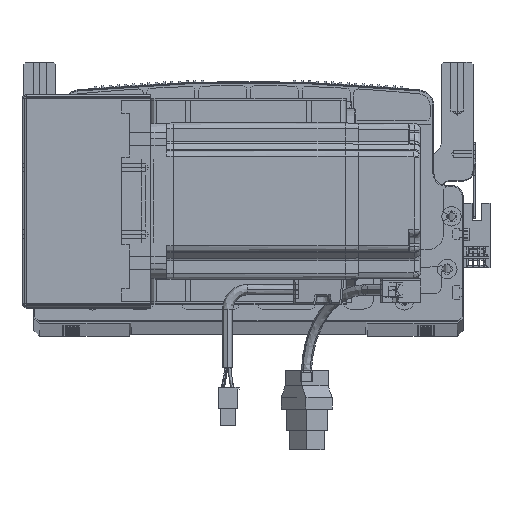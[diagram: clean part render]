
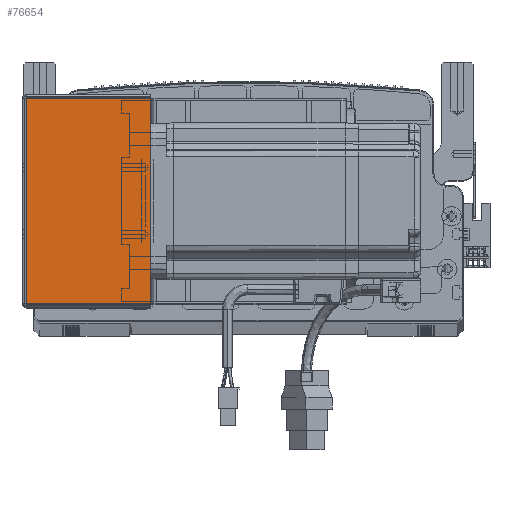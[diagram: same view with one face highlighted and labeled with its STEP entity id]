
A CAD part, top view. The second image highlights one B-rep face of the part: STEP entity #76654.
In plain terms, the highlighted planar face has unit normal (0, 0, 1) as drawn and (0, 0, -1) by its records, which use the part's own axes.
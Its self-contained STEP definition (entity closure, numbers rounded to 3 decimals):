
#3818 = DIRECTION ( 'NONE',  ( 1., 0., 0. ) ) ;
#11766 = DIRECTION ( 'NONE',  ( 0., 0., 1. ) ) ;
#13810 = VECTOR ( 'NONE', #64319, 1000. ) ;
#14228 = VERTEX_POINT ( 'NONE', #30623 ) ;
#14916 = ORIENTED_EDGE ( 'NONE', *, *, #86000, .T. ) ;
#19046 = VERTEX_POINT ( 'NONE', #31924 ) ;
#21221 = DIRECTION ( 'NONE',  ( 0., -1., 0. ) ) ;
#29099 = CARTESIAN_POINT ( 'NONE',  ( 0., 0.707, -205.5 ) ) ;
#30623 = CARTESIAN_POINT ( 'NONE',  ( 64.5, 0.707, -205.5 ) ) ;
#31924 = CARTESIAN_POINT ( 'NONE',  ( 0.737, 105.293, -205.5 ) ) ;
#35052 = VECTOR ( 'NONE', #52496, 1000. ) ;
#35755 = CARTESIAN_POINT ( 'NONE',  ( 64.5, 0., -205.5 ) ) ;
#38314 = ORIENTED_EDGE ( 'NONE', *, *, #84875, .F. ) ;
#40549 = VERTEX_POINT ( 'NONE', #63006 ) ;
#47171 = EDGE_LOOP ( 'NONE', ( #38314, #102355, #14916, #94106 ) ) ;
#50418 = LINE ( 'NONE', #100707, #66700 ) ;
#51675 = CARTESIAN_POINT ( 'NONE',  ( 0., 0., -205.5 ) ) ;
#52496 = DIRECTION ( 'NONE',  ( 0., -1., 0. ) ) ;
#57505 = EDGE_CURVE ( 'NONE', #19046, #67786, #77727, .T. ) ;
#58948 = VECTOR ( 'NONE', #83717, 1000. ) ;
#63006 = CARTESIAN_POINT ( 'NONE',  ( 0.737, 0.707, -205.5 ) ) ;
#64043 = EDGE_CURVE ( 'NONE', #40549, #14228, #71441, .T. ) ;
#64319 = DIRECTION ( 'NONE',  ( 1., 0., 0. ) ) ;
#66700 = VECTOR ( 'NONE', #21221, 1000. ) ;
#67786 = VERTEX_POINT ( 'NONE', #91181 ) ;
#71441 = LINE ( 'NONE', #29099, #58948 ) ;
#73385 = CARTESIAN_POINT ( 'NONE',  ( 0., 105.293, -205.5 ) ) ;
#76654 = ADVANCED_FACE ( 'NONE', ( #91549 ), #99623, .F. ) ;
#77727 = LINE ( 'NONE', #73385, #13810 ) ;
#78563 = AXIS2_PLACEMENT_3D ( 'NONE', #51675, #11766, #3818 ) ;
#83717 = DIRECTION ( 'NONE',  ( 1., 0., 0. ) ) ;
#84875 = EDGE_CURVE ( 'NONE', #19046, #40549, #50418, .T. ) ;
#86000 = EDGE_CURVE ( 'NONE', #67786, #14228, #101391, .T. ) ;
#91181 = CARTESIAN_POINT ( 'NONE',  ( 64.5, 105.293, -205.5 ) ) ;
#91549 = FACE_OUTER_BOUND ( 'NONE', #47171, .T. ) ;
#94106 = ORIENTED_EDGE ( 'NONE', *, *, #64043, .F. ) ;
#99623 = PLANE ( 'NONE',  #78563 ) ;
#100707 = CARTESIAN_POINT ( 'NONE',  ( 0.737, 0., -205.5 ) ) ;
#101391 = LINE ( 'NONE', #35755, #35052 ) ;
#102355 = ORIENTED_EDGE ( 'NONE', *, *, #57505, .T. ) ;
